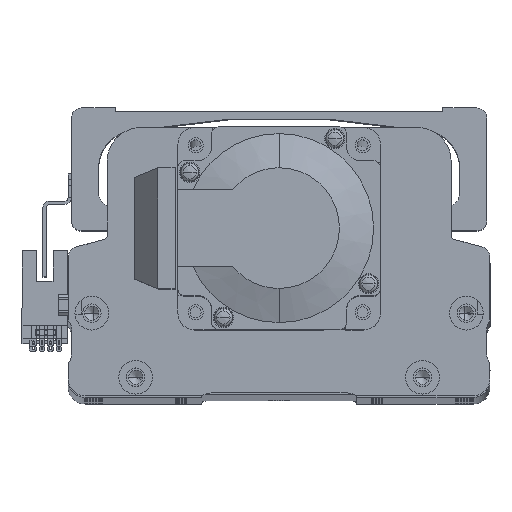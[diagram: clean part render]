
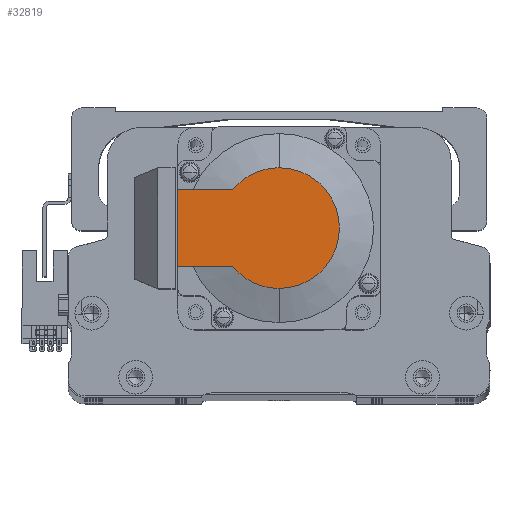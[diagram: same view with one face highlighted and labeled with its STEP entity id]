
A CAD part, top view. The second image highlights one B-rep face of the part: STEP entity #32819.
In plain terms, the highlighted planar face has unit normal (0, 0, 1) as drawn and (-1, 0, 0) by its records, which use the part's own axes.
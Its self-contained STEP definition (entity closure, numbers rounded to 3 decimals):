
#197 = DIRECTION ( 'NONE',  ( -1., 0., 0. ) ) ;
#2096 = ORIENTED_EDGE ( 'NONE', *, *, #28522, .T. ) ;
#2630 = VERTEX_POINT ( 'NONE', #34570 ) ;
#3611 = DIRECTION ( 'NONE',  ( -1., 0., 0. ) ) ;
#5236 = AXIS2_PLACEMENT_3D ( 'NONE', #29317, #3611, #33604 ) ;
#6631 = DIRECTION ( 'NONE',  ( 0., -1., 0. ) ) ;
#7373 = LINE ( 'NONE', #24443, #27560 ) ;
#8634 = PLANE ( 'NONE',  #53355 ) ;
#10888 = CARTESIAN_POINT ( 'NONE',  ( -118.5, 13.735, 11.45 ) ) ;
#11215 = VECTOR ( 'NONE', #38258, 1000. ) ;
#11541 = EDGE_CURVE ( 'NONE', #2630, #38549, #45356, .T. ) ;
#13050 = CARTESIAN_POINT ( 'NONE',  ( -118.5, 13.735, -11.45 ) ) ;
#13222 = CIRCLE ( 'NONE', #40893, 17.881 ) ;
#15849 = LINE ( 'NONE', #32301, #48687 ) ;
#16829 = DIRECTION ( 'NONE',  ( -1., 0., 0. ) ) ;
#17728 = CARTESIAN_POINT ( 'NONE',  ( -118.5, 0., 0. ) ) ;
#19258 = VERTEX_POINT ( 'NONE', #39207 ) ;
#20595 = VERTEX_POINT ( 'NONE', #55223 ) ;
#22028 = VERTEX_POINT ( 'NONE', #13050 ) ;
#22068 = DIRECTION ( 'NONE',  ( 0., 0., -1. ) ) ;
#24101 = CIRCLE ( 'NONE', #26664, 17.881 ) ;
#24443 = CARTESIAN_POINT ( 'NONE',  ( -118.5, 30., 25. ) ) ;
#25906 = CARTESIAN_POINT ( 'NONE',  ( -118.5, -8.941, 0. ) ) ;
#26664 = AXIS2_PLACEMENT_3D ( 'NONE', #42469, #16829, #46731 ) ;
#27560 = VECTOR ( 'NONE', #41818, 1000. ) ;
#28085 = CARTESIAN_POINT ( 'NONE',  ( -118.5, 0., 17.881 ) ) ;
#28522 = EDGE_CURVE ( 'NONE', #19258, #52051, #24101, .T. ) ;
#29317 = CARTESIAN_POINT ( 'NONE',  ( -118.5, 0., 0. ) ) ;
#30217 = DIRECTION ( 'NONE',  ( 0., 0., 1. ) ) ;
#32301 = CARTESIAN_POINT ( 'NONE',  ( -118.5, -8.941, -11.45 ) ) ;
#32819 = ADVANCED_FACE ( 'NONE', ( #41193 ), #8634, .T. ) ;
#33604 = DIRECTION ( 'NONE',  ( 0., 0., -1. ) ) ;
#34570 = CARTESIAN_POINT ( 'NONE',  ( -118.5, 30., 11.45 ) ) ;
#35766 = ORIENTED_EDGE ( 'NONE', *, *, #11541, .F. ) ;
#36598 = EDGE_CURVE ( 'NONE', #22028, #19258, #48433, .T. ) ;
#38258 = DIRECTION ( 'NONE',  ( 0., -1., 0. ) ) ;
#38549 = VERTEX_POINT ( 'NONE', #10888 ) ;
#39207 = CARTESIAN_POINT ( 'NONE',  ( -118.5, 0., -17.881 ) ) ;
#40847 = ORIENTED_EDGE ( 'NONE', *, *, #54801, .T. ) ;
#40893 = AXIS2_PLACEMENT_3D ( 'NONE', #17728, #47652, #22068 ) ;
#41193 = FACE_OUTER_BOUND ( 'NONE', #51469, .T. ) ;
#41818 = DIRECTION ( 'NONE',  ( 0., 0., 1. ) ) ;
#42469 = CARTESIAN_POINT ( 'NONE',  ( -118.5, 0., 0. ) ) ;
#42534 = CARTESIAN_POINT ( 'NONE',  ( -118.5, 0., 11.45 ) ) ;
#44366 = ORIENTED_EDGE ( 'NONE', *, *, #50716, .F. ) ;
#45356 = LINE ( 'NONE', #42534, #11215 ) ;
#46731 = DIRECTION ( 'NONE',  ( 0., 0., -1. ) ) ;
#47652 = DIRECTION ( 'NONE',  ( -1., 0., 0. ) ) ;
#48433 = CIRCLE ( 'NONE', #5236, 17.881 ) ;
#48687 = VECTOR ( 'NONE', #6631, 1000. ) ;
#50716 = EDGE_CURVE ( 'NONE', #20595, #2630, #7373, .T. ) ;
#51469 = EDGE_LOOP ( 'NONE', ( #53189, #52539, #2096, #40847, #35766, #44366 ) ) ;
#52051 = VERTEX_POINT ( 'NONE', #28085 ) ;
#52539 = ORIENTED_EDGE ( 'NONE', *, *, #36598, .T. ) ;
#53189 = ORIENTED_EDGE ( 'NONE', *, *, #55010, .T. ) ;
#53355 = AXIS2_PLACEMENT_3D ( 'NONE', #25906, #197, #30217 ) ;
#54801 = EDGE_CURVE ( 'NONE', #52051, #38549, #13222, .T. ) ;
#55010 = EDGE_CURVE ( 'NONE', #20595, #22028, #15849, .T. ) ;
#55223 = CARTESIAN_POINT ( 'NONE',  ( -118.5, 30., -11.45 ) ) ;
